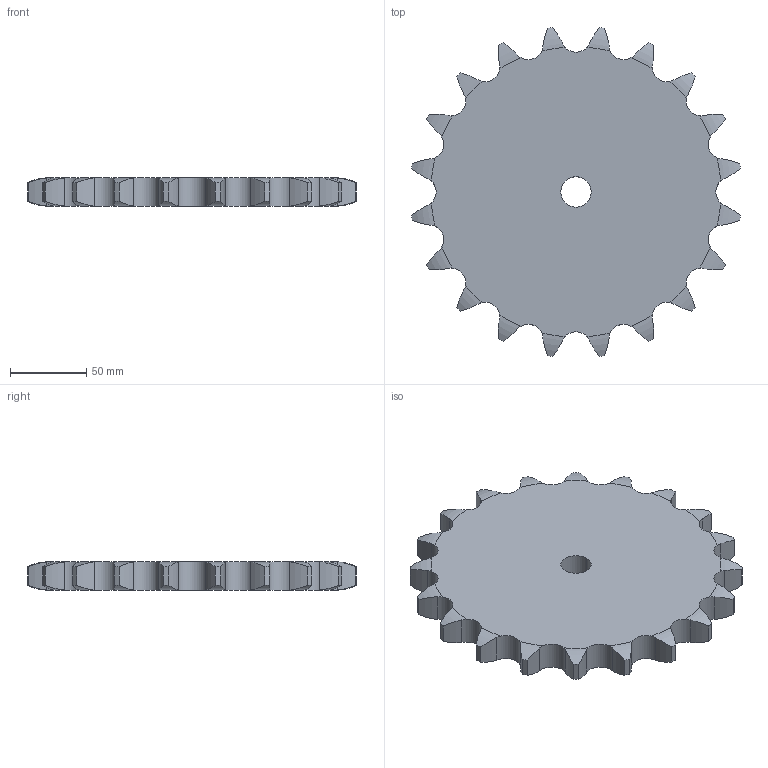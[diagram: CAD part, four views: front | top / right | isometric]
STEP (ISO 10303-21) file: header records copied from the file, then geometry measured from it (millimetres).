
FILE_DESCRIPTION((''),'2;1');
FILE_NAME('500-601-0020_PRT','2021-02-12T',('Brieden'),('Brieden'),'PRO/ENGINEER BY PARAMETRIC TECHNOLOGY CORPORATION, 2010160','PRO/ENGINEER BY PARAMETRIC TECHNOLOGY CORPORATION, 2010160','');
FILE_SCHEMA(('AUTOMOTIVE_DESIGN { 1 0 10303 214 1 1 1 1 }'));
Length unit declared in the file: millimetre
Products named in the file (1): 500-601-0020_PRT
Bounding box: 215.93 x 215.93 x 18.5 mm (x, y, z)
Volume: 555894.4 mm3; surface area: 78699.2 mm2
Topology: 1 solids, 1 shells, 124 faces, 366 edges, 244 vertices
Faces by surface type: cylinder 82, torus 40, plane 2
Entity records: 6086 total; most frequent: CARTESIAN_POINT 1797, ORIENTED_EDGE 732, DIRECTION 578, PRESENTATION_STYLE_ASSIGNMENT 367, STYLED_ITEM 367, CURVE_STYLE 366, EDGE_CURVE 366, AXIS2_PLACEMENT_3D 248
